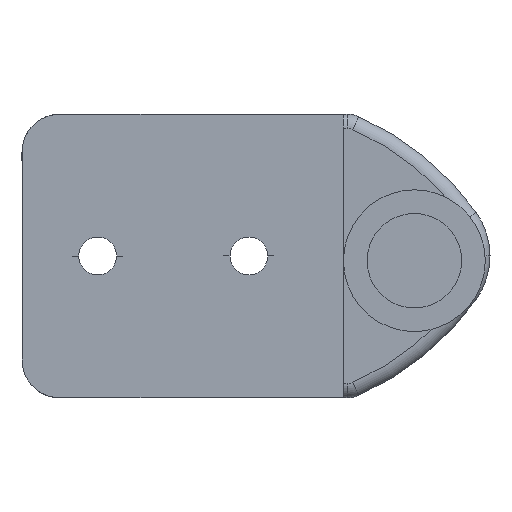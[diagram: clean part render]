
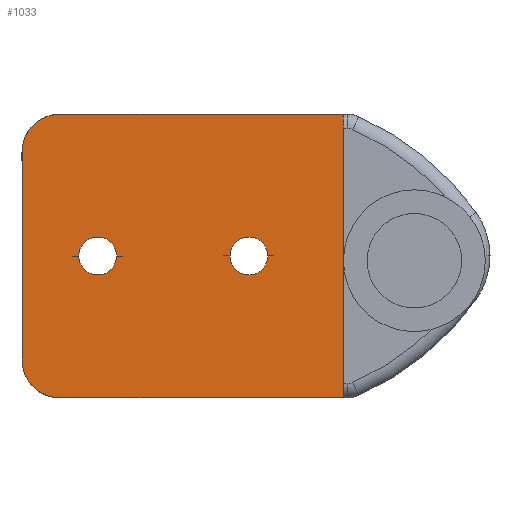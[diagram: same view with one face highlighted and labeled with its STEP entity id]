
A CAD part, front view. The second image highlights one B-rep face of the part: STEP entity #1033.
In plain terms, the highlighted planar face has unit normal (0, -1, 0).
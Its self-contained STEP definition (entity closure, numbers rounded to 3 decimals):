
#24 = EDGE_CURVE ( 'NONE', #2575, #2519, #484, .T. ) ;
#30 = EDGE_CURVE ( 'NONE', #2519, #2539, #478, .T. ) ;
#36 = EDGE_CURVE ( 'NONE', #2539, #2569, #473, .T. ) ;
#103 = EDGE_LOOP ( 'NONE', ( #660, #661 ) ) ;
#104 = CIRCLE ( 'NONE', #4039, 2. ) ;
#113 = CIRCLE ( 'NONE', #4049, 2. ) ;
#116 = CIRCLE ( 'NONE', #4054, 2. ) ;
#117 = VECTOR ( 'NONE', #4373, 1000. ) ;
#120 = LINE ( 'NONE', #4374, #117 ) ;
#168 = CIRCLE ( 'NONE', #4005, 2. ) ;
#181 = VECTOR ( 'NONE', #4496, 1000. ) ;
#183 = LINE ( 'NONE', #4497, #181 ) ;
#194 = VECTOR ( 'NONE', #4544, 1000. ) ;
#196 = LINE ( 'NONE', #4545, #194 ) ;
#305 = FACE_OUTER_BOUND ( 'NONE', #910, .T. ) ;
#306 = FACE_BOUND ( 'NONE', #946, .T. ) ;
#307 = FACE_BOUND ( 'NONE', #103, .T. ) ;
#473 = CIRCLE ( 'NONE', #1239, 4. ) ;
#477 = VECTOR ( 'NONE', #2354, 1000. ) ;
#478 = LINE ( 'NONE', #2355, #477 ) ;
#484 = CIRCLE ( 'NONE', #1112, 4. ) ;
#660 = ORIENTED_EDGE ( 'NONE', *, *, #1189, .F. ) ;
#661 = ORIENTED_EDGE ( 'NONE', *, *, #1227, .F. ) ;
#662 = ORIENTED_EDGE ( 'NONE', *, *, #1240, .F. ) ;
#663 = ORIENTED_EDGE ( 'NONE', *, *, #1228, .F. ) ;
#664 = ORIENTED_EDGE ( 'NONE', *, *, #1181, .T. ) ;
#666 = ORIENTED_EDGE ( 'NONE', *, *, #24, .T. ) ;
#667 = ORIENTED_EDGE ( 'NONE', *, *, #30, .T. ) ;
#668 = ORIENTED_EDGE ( 'NONE', *, *, #36, .T. ) ;
#669 = ORIENTED_EDGE ( 'NONE', *, *, #1169, .T. ) ;
#670 = ORIENTED_EDGE ( 'NONE', *, *, #1226, .T. ) ;
#910 = EDGE_LOOP ( 'NONE', ( #664, #666, #667, #668, #669, #670 ) ) ;
#946 = EDGE_LOOP ( 'NONE', ( #662, #663 ) ) ;
#1033 = ADVANCED_FACE ( 'NONE', ( #307, #306, #305 ), #3032, .T. ) ;
#1112 = AXIS2_PLACEMENT_3D ( 'NONE', #2372, #2371, #2370 ) ;
#1169 = EDGE_CURVE ( 'NONE', #2569, #2534, #196, .T. ) ;
#1181 = EDGE_CURVE ( 'NONE', #2525, #2575, #183, .T. ) ;
#1189 = EDGE_CURVE ( 'NONE', #2536, #2528, #168, .T. ) ;
#1226 = EDGE_CURVE ( 'NONE', #2534, #2525, #120, .T. ) ;
#1227 = EDGE_CURVE ( 'NONE', #2528, #2536, #116, .T. ) ;
#1228 = EDGE_CURVE ( 'NONE', #2495, #2512, #113, .T. ) ;
#1239 = AXIS2_PLACEMENT_3D ( 'NONE', #2316, #2315, #2314 ) ;
#1240 = EDGE_CURVE ( 'NONE', #2512, #2495, #104, .T. ) ;
#1276 = AXIS2_PLACEMENT_3D ( 'NONE', #3031, #3029, #3028 ) ;
#2314 = DIRECTION ( 'NONE',  ( 1., 0., 0. ) ) ;
#2315 = DIRECTION ( 'NONE',  ( 0., -1., 0. ) ) ;
#2316 = CARTESIAN_POINT ( 'NONE',  ( -37.5, 267., -10.5 ) ) ;
#2354 = DIRECTION ( 'NONE',  ( 0., 0., -1. ) ) ;
#2355 = CARTESIAN_POINT ( 'NONE',  ( -41.5, 267., -10.5 ) ) ;
#2370 = DIRECTION ( 'NONE',  ( 1., 0., 0. ) ) ;
#2371 = DIRECTION ( 'NONE',  ( 0., -1., 0. ) ) ;
#2372 = CARTESIAN_POINT ( 'NONE',  ( -37.5, 267., 11.5 ) ) ;
#2495 = VERTEX_POINT ( 'NONE', #4186 ) ;
#2512 = VERTEX_POINT ( 'NONE', #4169 ) ;
#2519 = VERTEX_POINT ( 'NONE', #4162 ) ;
#2525 = VERTEX_POINT ( 'NONE', #4156 ) ;
#2528 = VERTEX_POINT ( 'NONE', #4153 ) ;
#2534 = VERTEX_POINT ( 'NONE', #4147 ) ;
#2536 = VERTEX_POINT ( 'NONE', #4145 ) ;
#2539 = VERTEX_POINT ( 'NONE', #4142 ) ;
#2569 = VERTEX_POINT ( 'NONE', #4112 ) ;
#2575 = VERTEX_POINT ( 'NONE', #4106 ) ;
#3028 = DIRECTION ( 'NONE',  ( 1., 0., 0. ) ) ;
#3029 = DIRECTION ( 'NONE',  ( 0., -1., 0. ) ) ;
#3031 = CARTESIAN_POINT ( 'NONE',  ( -37.5, 267., -10.5 ) ) ;
#3032 = PLANE ( 'NONE',  #1276 ) ;
#4005 = AXIS2_PLACEMENT_3D ( 'NONE', #4478, #4477, #4476 ) ;
#4039 = AXIS2_PLACEMENT_3D ( 'NONE', #4314, #4313, #4312 ) ;
#4049 = AXIS2_PLACEMENT_3D ( 'NONE', #4369, #4368, #4367 ) ;
#4054 = AXIS2_PLACEMENT_3D ( 'NONE', #4372, #4371, #4370 ) ;
#4106 = CARTESIAN_POINT ( 'NONE',  ( -37.5, 267., 15.5 ) ) ;
#4112 = CARTESIAN_POINT ( 'NONE',  ( -37.5, 267., -14.5 ) ) ;
#4142 = CARTESIAN_POINT ( 'NONE',  ( -41.5, 267., -10.5 ) ) ;
#4145 = CARTESIAN_POINT ( 'NONE',  ( -19.5, 267., 0.5 ) ) ;
#4147 = CARTESIAN_POINT ( 'NONE',  ( -7.5, 267., -14.5 ) ) ;
#4153 = CARTESIAN_POINT ( 'NONE',  ( -15.5, 267., 0.5 ) ) ;
#4156 = CARTESIAN_POINT ( 'NONE',  ( -7.5, 267., 15.5 ) ) ;
#4162 = CARTESIAN_POINT ( 'NONE',  ( -41.5, 267., 11.5 ) ) ;
#4169 = CARTESIAN_POINT ( 'NONE',  ( -35.5, 267., 0.5 ) ) ;
#4186 = CARTESIAN_POINT ( 'NONE',  ( -31.5, 267., 0.5 ) ) ;
#4312 = DIRECTION ( 'NONE',  ( 1., 0., 0. ) ) ;
#4313 = DIRECTION ( 'NONE',  ( 0., -1., 0. ) ) ;
#4314 = CARTESIAN_POINT ( 'NONE',  ( -33.5, 267., 0.5 ) ) ;
#4367 = DIRECTION ( 'NONE',  ( 1., 0., 0. ) ) ;
#4368 = DIRECTION ( 'NONE',  ( 0., -1., 0. ) ) ;
#4369 = CARTESIAN_POINT ( 'NONE',  ( -33.5, 267., 0.5 ) ) ;
#4370 = DIRECTION ( 'NONE',  ( 1., 0., 0. ) ) ;
#4371 = DIRECTION ( 'NONE',  ( 0., -1., 0. ) ) ;
#4372 = CARTESIAN_POINT ( 'NONE',  ( -17.5, 267., 0.5 ) ) ;
#4373 = DIRECTION ( 'NONE',  ( 0., 0., 1. ) ) ;
#4374 = CARTESIAN_POINT ( 'NONE',  ( -7.5, 267., 15.5 ) ) ;
#4476 = DIRECTION ( 'NONE',  ( 1., 0., 0. ) ) ;
#4477 = DIRECTION ( 'NONE',  ( 0., -1., 0. ) ) ;
#4478 = CARTESIAN_POINT ( 'NONE',  ( -17.5, 267., 0.5 ) ) ;
#4496 = DIRECTION ( 'NONE',  ( -1., 0., 0. ) ) ;
#4497 = CARTESIAN_POINT ( 'NONE',  ( -37.5, 267., 15.5 ) ) ;
#4544 = DIRECTION ( 'NONE',  ( 1., 0., 0. ) ) ;
#4545 = CARTESIAN_POINT ( 'NONE',  ( -7.5, 267., -14.5 ) ) ;
